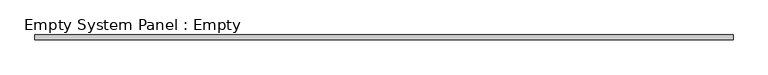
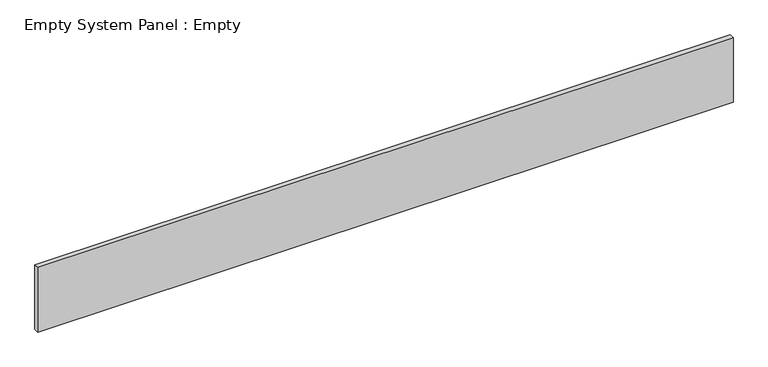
"""IFC4 building model written with IfcOpenShell, lengths in millimetres: plate geometry, Empty System Panel : Empty."""

from ifc_helpers import new_model, si_unit, origin, origin_with_axes, place, context, project, spatial, polyline, outline, extrude, source, transform, mapped, element, save


def empty_system_panel_empty_771d9a7e(model_context):
    return source(origin(), model_context, "Body", "SweptSolid", [
        extrude(outline(polyline([(7326.0487521, -50.0), (-7326.0487521, -50.0), (-7326.0487521, 50.0), (7326.0487521, 50.0), (7326.0487521, -50.0)])), origin_with_axes(), (0.0, 0.0, 1.0), 1440.0),
    ])


if __name__ == "__main__":
    model = new_model("IFC4")
    model_context = context("Model", 3, world=origin())
    ifc_project = project(units=[si_unit("LENGTHUNIT", "METRE", prefix="MILLI")], contexts=[model_context])
    site = spatial("IfcSite", under=ifc_project)
    building = spatial("IfcBuilding", under=site)
    placement = place(None, origin())
    empty_system_panel_empty_shape = empty_system_panel_empty_771d9a7e(model_context)
    element("IfcPlate", 1, ObjectType="Empty System Panel : Empty", at=placement, inside=building, context=model_context, shape_type="MappedRepresentation", body=[
        mapped(empty_system_panel_empty_shape, transform((0.0, 0.0, 0.0), x_axis=(1.0, 0.0, 0.0), y_axis=(0.0, 1.0, 0.0), z_axis=(0.0, 0.0, 1.0))),
    ])
    save(model, "model.ifc")
